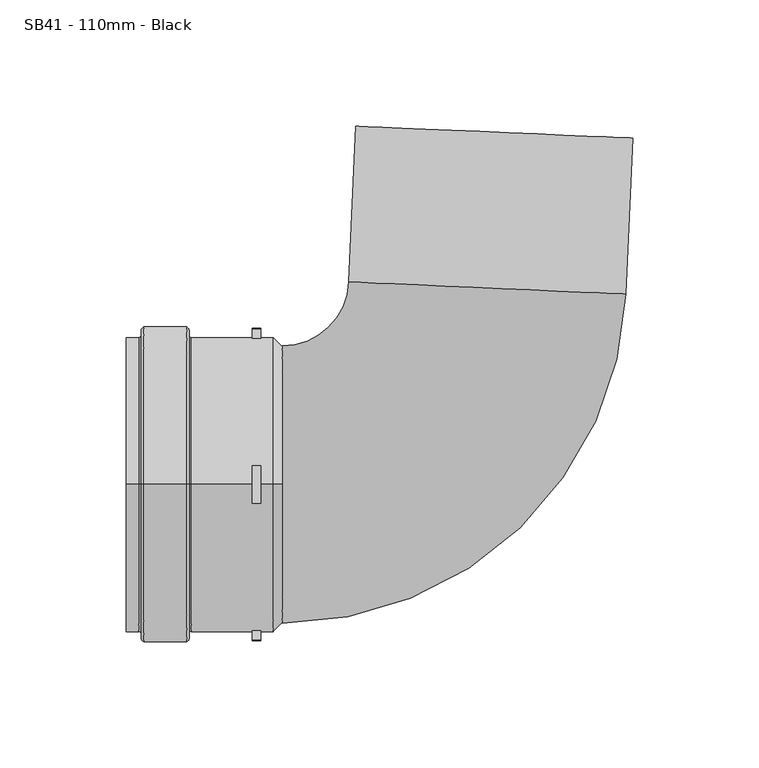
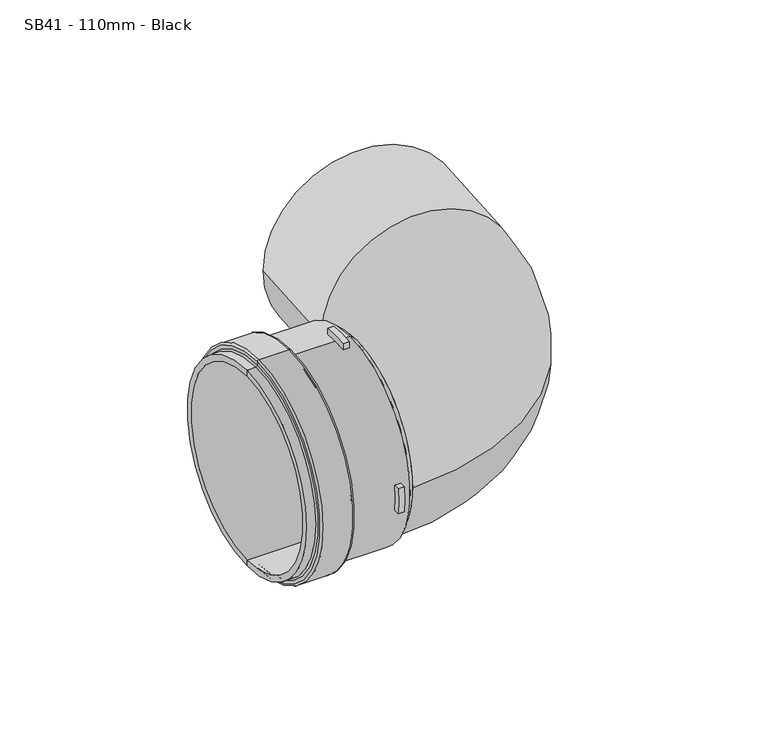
"""IFC4 building model written with IfcOpenShell, lengths in millimetres: pipe fitting geometry, MarleyPlumbingAndDrainage_PipeFitting_ShortRadiusBend87-5 : SB41 - 110mm - Black."""

from ifc_helpers import new_model, si_unit, point, frame, origin, origin_2d, place, context, project, spatial, polyline, circle_curve, ellipse_curve, trimmed, segment, composite_curve, outline, extrude, source, transform, mapped, element, save
from ifc_brep_helpers import plane_surface, cylinder_surface, revolved_surface, advanced_brep


def sb41_110mm_black_aa3cd719(model_context):
    return source(origin(), model_context, "Body", "SolidModel", [
        extrude(outline(composite_curve([segment(trimmed(circle_curve(origin_2d(), 58.5), [point((-7.5, -58.0172388))], [point((7.5, -58.0172388))], True, "CARTESIAN"), True, "CONTINUOUS"), segment(polyline([(7.5, -58.0172388), (7.5, -61.5446992)]), True, "CONTINUOUS"), segment(trimmed(circle_curve(origin_2d(), 62.0), [point((7.5, -61.5446992))], [point((-7.5, -61.5446992))], False, "CARTESIAN"), True, "CONTINUOUS"), segment(polyline([(-7.5, -61.5446992), (-7.5, -58.0172388)]), True, "CONTINUOUS")], self_intersect=False)), frame((-104.7860651, 0.0, 0.0), z_axis=(1.0, 0.0, 0.0), x_axis=(0.0, 1.0, 0.0)), (0.0, 0.0, 1.0), 3.5),
        extrude(outline(composite_curve([segment(trimmed(circle_curve(origin_2d(), 58.5), [point((7.5, 58.0172388))], [point((-7.5, 58.0172388))], True, "CARTESIAN"), True, "CONTINUOUS"), segment(polyline([(-7.5, 58.0172388), (-7.5, 61.5446992)]), True, "CONTINUOUS"), segment(trimmed(circle_curve(origin_2d(), 62.0), [point((-7.5, 61.5446992))], [point((7.5, 61.5446992))], False, "CARTESIAN"), True, "CONTINUOUS"), segment(polyline([(7.5, 61.5446992), (7.5, 58.0172388)]), True, "CONTINUOUS")], self_intersect=False)), frame((-104.7860651, 0.0, 0.0), z_axis=(1.0, 0.0, 0.0), x_axis=(0.0, 1.0, 0.0)), (0.0, 0.0, 1.0), 3.5),
        extrude(outline(composite_curve([segment(trimmed(circle_curve(origin_2d(), 58.5), [point((-58.0172388, 7.5))], [point((-58.0172388, -7.5))], True, "CARTESIAN"), True, "CONTINUOUS"), segment(polyline([(-58.0172388, -7.5), (-61.5446992, -7.5)]), True, "CONTINUOUS"), segment(trimmed(circle_curve(origin_2d(), 62.0), [point((-61.5446992, -7.5))], [point((-61.5446992, 7.5))], False, "CARTESIAN"), True, "CONTINUOUS"), segment(polyline([(-61.5446992, 7.5), (-58.0172388, 7.5)]), True, "CONTINUOUS")], self_intersect=False)), frame((-104.7860651, 0.0, 0.0), z_axis=(1.0, 0.0, 0.0), x_axis=(0.0, 1.0, 0.0)), (0.0, 0.0, 1.0), 3.5),
        extrude(outline(composite_curve([segment(trimmed(circle_curve(origin_2d(), 58.5), [point((58.0172388, -7.5))], [point((58.0172388, 7.5))], True, "CARTESIAN"), True, "CONTINUOUS"), segment(polyline([(58.0172388, 7.5), (61.5446992, 7.5)]), True, "CONTINUOUS"), segment(trimmed(circle_curve(origin_2d(), 62.0), [point((61.5446992, 7.5))], [point((61.5446992, -7.5))], False, "CARTESIAN"), True, "CONTINUOUS"), segment(polyline([(61.5446992, -7.5), (58.0172388, -7.5)]), True, "CONTINUOUS")], self_intersect=False)), frame((-104.7860651, 0.0, 0.0), z_axis=(1.0, 0.0, 0.0), x_axis=(0.0, 1.0, 0.0)), (0.0, 0.0, 1.0), 3.5),
        advanced_brep(
        [(-154.7860651, 0.0, 58.5), (-154.7860651, 0.0, -58.5), (-149.7925621, 0.0, -58.5), (-149.7925621, 0.0, 58.5), (-154.7860651, 0.0, 55.0), (-154.7860651, 0.0, -55.0), (-96.2860651, 0.0, 55.0), (-96.2860651, 0.0, -55.0), (-96.2860651, 0.0, 0.0), (-96.2860651, 0.0, 58.5), (-96.2860651, 0.0, -58.5), (-92.7860651, 0.0, -55.0), (-92.7860651, 0.0, 55.0), (-128.8118134, 0.0, 58.5), (-128.8118134, 0.0, -58.5), (-129.7860651, 0.0, 59.4742516), (-129.7860651, 0.0, -59.4742516), (-129.7860651, 0.0, 61.5187521), (-129.7860651, 0.0, -61.5187521), (-130.7673129, 0.0, 62.5), (-130.7673129, 0.0, -62.5), (-147.7421337, 0.0, 62.5), (-147.7421337, 0.0, -62.5), (-148.7860651, 0.0, 61.4560687), (-148.7860651, 0.0, -61.4560687), (-148.7860651, 0.0, 59.5064971), (-148.7860651, 0.0, -59.5064971), (-92.7860651, 0.0, 0.0)],
        [
            (0, 1, circle_curve(frame((-154.7860651, 0.0, 0.0), z_axis=(1.0, 0.0, 0.0), x_axis=(0.0, 0.0, -1.0)), 58.5)),
            (1, 2),
            (2, 3, circle_curve(frame((-149.7925621, 0.0, 0.0), z_axis=(-1.0, 0.0, 0.0), x_axis=(0.0, 0.0, -1.0)), 58.5)),
            (3, 0),
            (1, 0, circle_curve(frame((-154.7860651, 0.0, 0.0), z_axis=(1.0, 0.0, 0.0), x_axis=(0.0, 0.0, -1.0)), 58.5)),
            (3, 2, circle_curve(frame((-149.7925621, 0.0, 0.0), z_axis=(-1.0, 0.0, 0.0), x_axis=(0.0, 0.0, -1.0)), 58.5)),
            (4, 5, circle_curve(frame((-154.7860651, 0.0, 0.0), z_axis=(1.0, 0.0, 0.0), x_axis=(0.0, 0.0, -1.0)), 55.0)),
            (5, 1),
            (0, 4),
            (5, 4, circle_curve(frame((-154.7860651, 0.0, 0.0), z_axis=(1.0, 0.0, 0.0), x_axis=(0.0, 0.0, -1.0)), 55.0)),
            (6, 7, circle_curve(frame((-96.2860651, 0.0, 0.0), z_axis=(1.0, 0.0, 0.0), x_axis=(0.0, 0.0, -1.0)), 55.0)),
            (7, 5),
            (4, 6),
            (7, 6, circle_curve(frame((-96.2860651, 0.0, 0.0), z_axis=(1.0, 0.0, 0.0), x_axis=(0.0, 0.0, -1.0)), 55.0)),
            (8, 7),
            (6, 8),
            (9, 10, circle_curve(frame((-96.2860651, 0.0, 0.0), z_axis=(1.0, 0.0, 0.0), x_axis=(0.0, 0.0, -1.0)), 58.5)),
            (10, 11),
            (11, 12, circle_curve(frame((-92.7860651, 0.0, 0.0), z_axis=(-1.0, 0.0, 0.0), x_axis=(0.0, 0.0, -1.0)), 55.0)),
            (12, 9),
            (10, 9, circle_curve(frame((-96.2860651, 0.0, 0.0), z_axis=(1.0, 0.0, 0.0), x_axis=(0.0, 0.0, -1.0)), 58.5)),
            (12, 11, circle_curve(frame((-92.7860651, 0.0, 0.0), z_axis=(-1.0, 0.0, 0.0), x_axis=(0.0, 0.0, -1.0)), 55.0)),
            (13, 14, circle_curve(frame((-128.8118134, 0.0, 0.0), z_axis=(1.0, 0.0, 0.0), x_axis=(0.0, 0.0, -1.0)), 58.5)),
            (14, 10),
            (9, 13),
            (14, 13, circle_curve(frame((-128.8118134, 0.0, 0.0), z_axis=(1.0, 0.0, 0.0), x_axis=(0.0, 0.0, -1.0)), 58.5)),
            (15, 16, circle_curve(frame((-129.7860651, 0.0, 0.0), z_axis=(1.0, 0.0, 0.0), x_axis=(0.0, 0.0, -1.0)), 59.4742516)),
            (16, 14, circle_curve(frame((-128.8118134, 0.0, -59.4742516), z_axis=(0.0, 1.0, 0.0), x_axis=(1.0, 0.0, 0.0)), 0.9742516)),
            (13, 15, circle_curve(frame((-128.8118134, 0.0, 59.4742516), z_axis=(0.0, 1.0, 0.0), x_axis=(1.0, 0.0, 0.0)), 0.9742516)),
            (16, 15, circle_curve(frame((-129.7860651, 0.0, 0.0), z_axis=(1.0, 0.0, 0.0), x_axis=(0.0, 0.0, -1.0)), 59.4742516)),
            (17, 18, circle_curve(frame((-129.7860651, 0.0, 0.0), z_axis=(1.0, 0.0, 0.0), x_axis=(0.0, 0.0, -1.0)), 61.5187521)),
            (18, 16),
            (15, 17),
            (18, 17, circle_curve(frame((-129.7860651, 0.0, 0.0), z_axis=(1.0, 0.0, 0.0), x_axis=(0.0, 0.0, -1.0)), 61.5187521)),
            (19, 20, circle_curve(frame((-130.7673129, 0.0, 0.0), z_axis=(1.0, 0.0, 0.0), x_axis=(0.0, 0.0, -1.0)), 62.5)),
            (20, 18, circle_curve(frame((-130.7673129, 0.0, -61.5187521), z_axis=(0.0, -1.0, 0.0), x_axis=(1.0, 0.0, 0.0)), 0.9812479)),
            (17, 19, circle_curve(frame((-130.7673129, 0.0, 61.5187521), z_axis=(0.0, -1.0, 0.0), x_axis=(1.0, 0.0, 0.0)), 0.9812479)),
            (20, 19, circle_curve(frame((-130.7673129, 0.0, 0.0), z_axis=(1.0, 0.0, 0.0), x_axis=(0.0, 0.0, -1.0)), 62.5)),
            (21, 22, circle_curve(frame((-147.7421337, 0.0, 0.0), z_axis=(1.0, 0.0, 0.0), x_axis=(0.0, 0.0, -1.0)), 62.5)),
            (22, 20),
            (19, 21),
            (22, 21, circle_curve(frame((-147.7421337, 0.0, 0.0), z_axis=(1.0, 0.0, 0.0), x_axis=(0.0, 0.0, -1.0)), 62.5)),
            (23, 24, circle_curve(frame((-148.7860651, 0.0, 0.0), z_axis=(1.0, 0.0, 0.0), x_axis=(0.0, 0.0, -1.0)), 61.4560687)),
            (24, 22, circle_curve(frame((-147.7421337, 0.0, -61.4560687), z_axis=(0.0, -1.0, 0.0), x_axis=(1.0, 0.0, 0.0)), 1.0439313)),
            (21, 23, circle_curve(frame((-147.7421337, 0.0, 61.4560687), z_axis=(0.0, -1.0, 0.0), x_axis=(1.0, 0.0, 0.0)), 1.0439313)),
            (24, 23, circle_curve(frame((-148.7860651, 0.0, 0.0), z_axis=(1.0, 0.0, 0.0), x_axis=(0.0, 0.0, -1.0)), 61.4560687)),
            (25, 26, circle_curve(frame((-148.7860651, 0.0, 0.0), z_axis=(1.0, 0.0, 0.0), x_axis=(0.0, 0.0, -1.0)), 59.5064971)),
            (26, 24),
            (23, 25),
            (26, 25, circle_curve(frame((-148.7860651, 0.0, 0.0), z_axis=(1.0, 0.0, 0.0), x_axis=(0.0, 0.0, -1.0)), 59.5064971)),
            (2, 26, circle_curve(frame((-149.7925621, 0.0, -59.5064971), z_axis=(0.0, 1.0, 0.0), x_axis=(1.0, 0.0, 0.0)), 1.0064971)),
            (25, 3, circle_curve(frame((-149.7925621, 0.0, 59.5064971), z_axis=(0.0, 1.0, 0.0), x_axis=(1.0, 0.0, 0.0)), 1.0064971)),
            (11, 27),
            (27, 12),
        ],
        [
            cylinder_surface(frame((-194.7860651, 0.0, 0.0), z_axis=(-1.0, 0.0, 0.0), x_axis=(0.0, 0.0, -1.0)), 58.5),
            plane_surface(frame((-154.7860651, 0.0, 0.0), z_axis=(-1.0, 0.0, 0.0), x_axis=(0.0, 0.0, -1.0))),
            revolved_surface(polyline([(-154.7860651, 0.0, -55.0), (-96.2860651, 0.0, -55.0)]), (-194.7860651, 0.0, 0.0), (-1.0, 0.0, 0.0)),
            plane_surface(frame((-96.2860651, 0.0, 0.0), z_axis=(-1.0, 0.0, 0.0), x_axis=(0.0, 0.0, -1.0))),
            revolved_surface(polyline([(-92.7860651, 0.0, -55.0), (-96.2860651, 0.0, -58.5)]), (-194.7860651, 0.0, 0.0), (-1.0, 0.0, 0.0)),
            revolved_surface(trimmed(ellipse_curve(frame((-128.8118134, 0.0, -59.4742516), z_axis=(0.0, -1.0, 0.0), x_axis=(1.0, 0.0, 0.0)), 0.9742516, 0.9742516), [point((-128.8118134, 0.0, -58.5))], [point((-129.7860651, 0.0, -59.4742516))], True, "CARTESIAN"), (-194.7860651, 0.0, 0.0), (-1.0, 0.0, 0.0)),
            plane_surface(frame((-129.7860651, 0.0, 0.0), z_axis=(1.0, 0.0, 0.0), x_axis=(0.0, 0.0, -1.0))),
            revolved_surface(trimmed(ellipse_curve(frame((-130.7673129, 0.0, -61.5187521), z_axis=(0.0, 1.0, 0.0), x_axis=(1.0, 0.0, 0.0)), 0.9812479, 0.9812479), [point((-129.7860651, 0.0, -61.5187521))], [point((-130.7673129, 0.0, -62.5))], True, "CARTESIAN"), (-194.7860651, 0.0, 0.0), (-1.0, 0.0, 0.0)),
            cylinder_surface(frame((-194.7860651, 0.0, 0.0), z_axis=(-1.0, 0.0, 0.0), x_axis=(0.0, 0.0, -1.0)), 62.5),
            revolved_surface(trimmed(ellipse_curve(frame((-147.7421337, 0.0, -61.4560687), z_axis=(0.0, 1.0, 0.0), x_axis=(1.0, 0.0, 0.0)), 1.0439313, 1.0439313), [point((-147.7421337, 0.0, -62.5))], [point((-148.7860651, 0.0, -61.4560687))], True, "CARTESIAN"), (-194.7860651, 0.0, 0.0), (-1.0, 0.0, 0.0)),
            plane_surface(frame((-148.7860651, 0.0, 0.0), z_axis=(-1.0, 0.0, 0.0), x_axis=(0.0, 0.0, -1.0))),
            revolved_surface(trimmed(ellipse_curve(frame((-149.7925621, 0.0, -59.5064971), z_axis=(0.0, -1.0, 0.0), x_axis=(1.0, 0.0, 0.0)), 1.0064971, 1.0064971), [point((-148.7860651, 0.0, -59.5064971))], [point((-149.7925621, 0.0, -58.5))], True, "CARTESIAN"), (-194.7860651, 0.0, 0.0), (-1.0, 0.0, 0.0)),
            plane_surface(frame((-92.7860651, 0.0, 0.0), z_axis=(1.0, 0.0, 0.0), x_axis=(0.0, 0.0, -1.0))),
        ],
        [
            (0, [[1, 2, 3, 4]]),
            (0, [[5, -4, 6, -2]]),
            (1, [[7, 8, -1, 9]]),
            (1, [[10, -9, -5, -8]]),
            (2, [[11, 12, -7, 13]]),
            (2, [[14, -13, -10, -12]]),
            (3, [[15, -11, 16]]),
            (3, [[-16, -14, -15]]),
            (4, [[17, 18, 19, 20]]),
            (4, [[21, -20, 22, -18]]),
            (0, [[23, 24, -17, 25]]),
            (0, [[26, -25, -21, -24]]),
            (5, [[27, 28, -23, 29]]),
            (5, [[30, -29, -26, -28]]),
            (6, [[31, 32, -27, 33]]),
            (6, [[34, -33, -30, -32]]),
            (7, [[35, 36, -31, 37]]),
            (7, [[38, -37, -34, -36]]),
            (8, [[39, 40, -35, 41]]),
            (8, [[42, -41, -38, -40]]),
            (9, [[43, 44, -39, 45]]),
            (9, [[46, -45, -42, -44]]),
            (10, [[47, 48, -43, 49]]),
            (10, [[50, -49, -46, -48]]),
            (11, [[-3, 51, -47, 52]]),
            (11, [[-6, -52, -50, -51]]),
            (12, [[-19, 53, 54]]),
            (12, [[-22, -54, -53]]),
        ],
    ),
        advanced_brep(
        [(-92.7860651, -55.0, 0.0), (-92.7860651, 55.0, 0.0), (-66.3112872, 80.3440862, 0.0), (43.5840172, 75.5459536, 0.0), (46.2858452, 137.4279893, 0.0), (-63.6094592, 142.2261219, 0.0)],
        [
            (0, 1, circle_curve(frame((-92.7860651, 0.0, 0.0), z_axis=(-1.0, 0.0, 0.0), x_axis=(0.0, 1.0, 0.0)), 55.0)),
            (1, 0, circle_curve(frame((-92.7860651, 0.0, 0.0), z_axis=(-1.0, 0.0, 0.0), x_axis=(0.0, 1.0, 0.0)), 55.0)),
            (2, 1, circle_curve(frame((-92.7860651, 81.5, 0.0), z_axis=(0.0, 0.0, -1.0), x_axis=(0.0, -1.0, 0.0)), 26.5)),
            (0, 3, circle_curve(frame((-92.7860651, 81.5, 0.0), z_axis=(0.0, 0.0, 1.0), x_axis=(0.0, -1.0, 0.0)), 136.5)),
            (3, 2, circle_curve(frame((-11.363635, 77.9450199, 0.0), z_axis=(-0.043619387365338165, -0.9990482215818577, 0.0), x_axis=(-0.9990482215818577, 0.043619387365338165, 0.0)), 55.0)),
            (2, 3, circle_curve(frame((-11.363635, 77.9450199, 0.0), z_axis=(-0.04361938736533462, -0.9990482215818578, 0.0), x_axis=(-0.9990482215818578, 0.04361938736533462, 0.0)), 55.0)),
            (4, 5, circle_curve(frame((-8.661807, 139.8270556, 0.0), z_axis=(0.04361938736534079, 0.9990482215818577, 0.0), x_axis=(-0.9990482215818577, 0.04361938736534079, 0.0)), 55.0)),
            (5, 4, circle_curve(frame((-8.661807, 139.8270556, 0.0), z_axis=(0.04361938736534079, 0.9990482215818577, 0.0), x_axis=(-0.9990482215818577, 0.04361938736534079, 0.0)), 55.0)),
            (3, 4),
            (5, 2),
        ],
        [
            plane_surface(frame((-92.7860651, 0.0, 0.0), z_axis=(-1.0, 0.0, 0.0), x_axis=(0.0, 0.0, 1.0))),
            revolved_surface(trimmed(ellipse_curve(frame((-92.7860651, 0.0, 0.0), z_axis=(-1.0, 0.0, 0.0), x_axis=(0.0, 1.0, 0.0)), 55.0, 55.0), [point((-92.7860651, -55.0, 0.0))], [point((-92.7860651, 55.0, 0.0))], True, "CARTESIAN"), (-92.7860651, 81.5, 0.0), (0.0, 0.0, 1.0)),
            revolved_surface(trimmed(ellipse_curve(frame((-92.7860651, 0.0, 0.0), z_axis=(-1.0, 0.0, 0.0), x_axis=(0.0, 1.0, 0.0)), 55.0, 55.0), [point((-92.7860651, 55.0, 0.0))], [point((-92.7860651, -55.0, 0.0))], True, "CARTESIAN"), (-92.7860651, 81.5, 0.0), (0.0, 0.0, 1.0)),
            plane_surface(frame((-8.661807, 139.8270556, 0.0), z_axis=(0.04361938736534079, 0.9990482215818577, 0.0), x_axis=(0.0, 0.0, 1.0))),
            cylinder_surface(frame((-11.363635, 77.9450199, 0.0), z_axis=(-0.04361938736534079, -0.9990482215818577, 0.0), x_axis=(-0.9990482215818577, 0.04361938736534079, 0.0)), 55.0),
        ],
        [
            (0, [[1, 2]]),
            (1, [[3, -1, 4, 5]]),
            (2, [[-4, -2, -3, 6]]),
            (3, [[7, 8]]),
            (4, [[-5, 9, -8, 10]]),
            (4, [[-6, -10, -7, -9]]),
        ],
    ),
    ])


if __name__ == "__main__":
    model = new_model("IFC4")
    model_context = context("Model", 3, world=origin())
    ifc_project = project(units=[si_unit("LENGTHUNIT", "METRE", prefix="MILLI")], contexts=[model_context])
    site = spatial("IfcSite", under=ifc_project)
    building = spatial("IfcBuilding", under=site)
    placement = place(None, origin())
    sb41_110mm_black_shape = sb41_110mm_black_aa3cd719(model_context)
    element("IfcPipeFitting", 1, ObjectType="MarleyPlumbingAndDrainage_PipeFitting_ShortRadiusBend87-5 : SB41 - 110mm - Black", at=placement, inside=building, context=model_context, shape_type="MappedRepresentation", body=[
        mapped(sb41_110mm_black_shape, transform((0.0, 0.0, 0.0), x_axis=(1.0, 0.0, 0.0), y_axis=(0.0, 1.0, 0.0), z_axis=(0.0, 0.0, 1.0))),
    ])
    save(model, "model.ifc")
